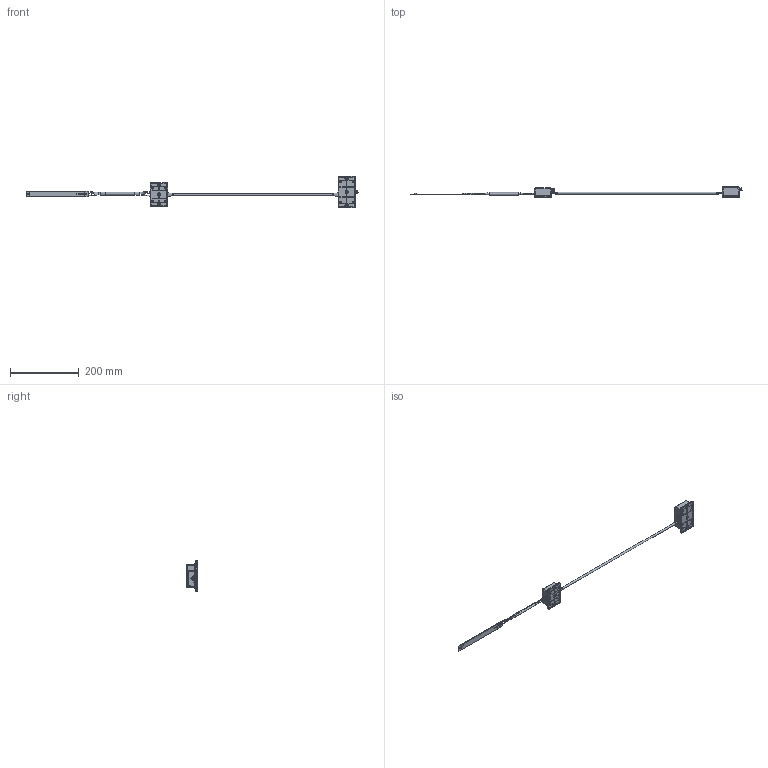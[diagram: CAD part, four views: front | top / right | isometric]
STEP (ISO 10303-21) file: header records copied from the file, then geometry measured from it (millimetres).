
FILE_DESCRIPTION(/* description */ (''),/* implementation_level */ '2;1');
FILE_NAME(/* name */ 'C:/Users/tyamada/Desktop/STEPファイル形式/120分離.step',/* time_stamp */ '2021-03-01T14:30:32+09:00',/* author */ (''),/* organization */ (''),/* preprocessor_version */ 'ST-DEVELOPER v18.1',/* originating_system */ 'Autodesk Translation Framework v9.7.1.1290',/* authorisation */ '');
FILE_SCHEMA (('AUTOMOTIVE_DESIGN { 1 0 10303 214 3 1 1 }'));
Products named in the file (57): 120分離; コントロールBOX_twf5-3-7 v5; tw5-3-7; tw5-3-7(下ｶﾊﾞｰ) (1); twf5-7(ﾌﾗﾝｼﾞ); JIS B 1122 - M2 (2); 基板; S6B-PH-SM4-TB v2; S5B-PH-SM4-TB v2; DF52-20S-0.8H v1; S2B-XH-A v1; 取り付けねじ; トランス分離、一体BOX v8; トランス分離,一体BOX_t
wf5-3-5 v1; TWF5-5_フランジ (1); TWF5-X-5-01 (1); JIS B 1122 - M2 (1); アース取り付け端子; コンポーネント52; トランス分離基板 およびハーネス; 高圧ハーネス; ヒーター線; GND線; 被覆剥き線_トランス分離側; 被覆剥き線_BLADE側; コンポーネント25; 高圧線; チューブ; 収縮; F2_TM; 基板_1; ハーネスハンダ付け; F2_TO_部品 v1; S6B-PH-SM4-TB v2_1; トランス; チップ抵抗; パッド (1); コンポーネント11; コンポーネント10; アキシャル抵抗 ...
Assembly tree (76 placements, depth 7):
  120分離
    コントロールBOX_twf5-3-7 v5
      tw5-3-7
        tw5-3-7(下ｶﾊﾞｰ) (1)
        twf5-7(ﾌﾗﾝｼﾞ)
        JIS B 1122 - M2 (2)  x4
      基板
        取り付けねじ  x4
        S6B-PH-SM4-TB v2
        S5B-PH-SM4-TB v2
        DF52-20S-0.8H v1
        S2B-XH-A v1
      アース取り付け端子
        コンポーネント52
    トランス分離、一体BOX v8
      トランス分離,一体BOX_t
wf5-3-5 v1
        TWF5-5_フランジ (1)
        TWF5-X-5-01 (1)
        JIS B 1122 - M2 (1)  x4
        アース取り付け端子
          コンポーネント52
      トランス分離基板 およびハーネス
        高圧ハーネス
          ヒーター線
          GND線
          被覆剥き線_トランス分離側
          被覆剥き線_BLADE側
            コンポーネント25
          高圧線
          チューブ
            収縮  x2
        F2_TM
          基板_1
          ハーネスハンダ付け
          F2_TO_部品 v1
            S6B-PH-SM4-TB v2_1
            トランス
            チップ抵抗
              パッド (1)
              コンポーネント11
              コンポーネント10
            アキシャル抵抗
              ハンダ
              リード線  x2
        F2_TM_120
          ハーネスハンダ付け_1
          マイカ電極
    低圧ハーネス v3
      ロボットケーブル
        ロボットケーブル内部配線
          コンポーネント7
          コンポーネント9
          コンポーネント8
          コンポーネント10_1
          コンポーネント5
          コンポーネント11_1  x2
        ロボットケーブル内部配線_
1
          コンポーネント7
          コンポーネント9
          コンポーネント8
Bounding box: 963.03 x 29.9 x 90.4 mm (x, y, z)
Volume: 88755.5 mm3; surface area: 102310.6 mm2
Topology: 103 solids, 103 shells, 3150 faces, 8128 edges, 5304 vertices
Faces by surface type: plane 2008, cylinder 624, bspline 210, cone 170, torus 118, sphere 20
Full cylindrical faces by diameter (mm): 0.6 x4, 1 x35, 1.4 x16, 1.478 x16, 1.5 x3, 1.933 x32, 2 x23, 2.2 x7, 2.6 x8, 2.9 x8, 3 x3, 3.002 x4, 3.5 x10, 4 x16, 4.5 x8, 5 x12, 5.2 x8, 5.4 x8, 6 x4, 6.5 x1, 7 x6, 7.351 x6, 7.9 x1, 7.927 x10, 8 x2
Entity records: 92311 total; most frequent: CARTESIAN_POINT 23357, ORIENTED_EDGE 14230, DIRECTION 13355, EDGE_CURVE 7115, LINE 5281, VECTOR 5281, VERTEX_POINT 4644, AXIS2_PLACEMENT_3D 4037
